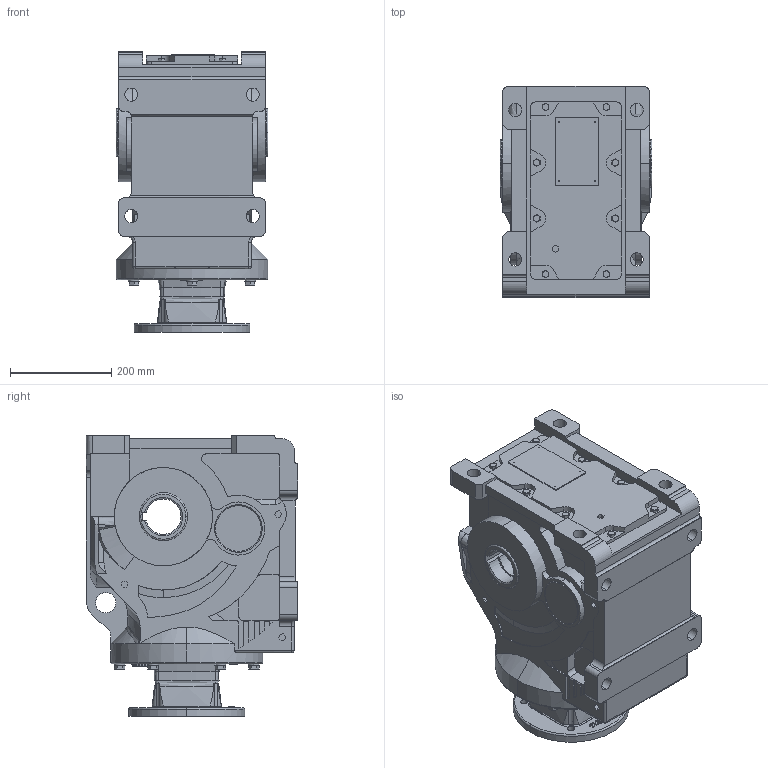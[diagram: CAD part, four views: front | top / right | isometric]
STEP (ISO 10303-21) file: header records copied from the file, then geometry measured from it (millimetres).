
FILE_DESCRIPTION (( 'STEP AP203' ), '1' );
FILE_NAME ('KHN97-213-5TC.STEP', '2022-04-08T05:23:47', ( 'user1' ), ( '' ), 'SwSTEP 2.0', 'SolidWorks 2012', '' );
FILE_SCHEMA (( 'CONFIG_CONTROL_DESIGN' ));
Products named in the file (1): KHN97-213-5TC
Bounding box: 300 x 417 x 554.5 mm (x, y, z)
Volume: 41119259 mm3; surface area: 1184311 mm2
Topology: 1 solids, 1 shells, 1079 faces, 2877 edges, 1864 vertices
Faces by surface type: plane 566, cylinder 263, bspline 130, cone 90, torus 28, sphere 2
Entity records: 43589 total; most frequent: CARTESIAN_POINT 17405, ORIENTED_EDGE 5730, DIRECTION 4943, EDGE_CURVE 2865, VERTEX_POINT 1864, LINE 1697, VECTOR 1697, AXIS2_PLACEMENT_3D 1623
